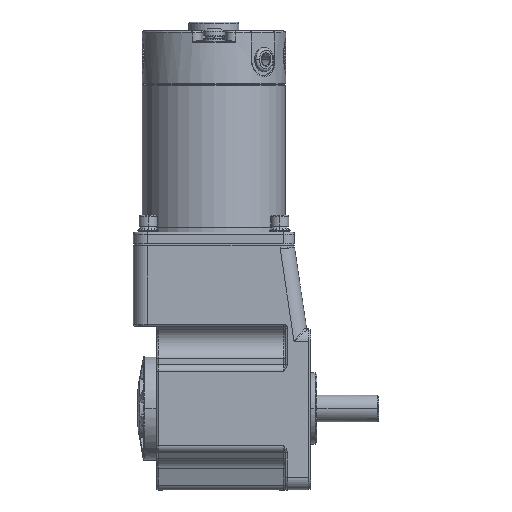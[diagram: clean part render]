
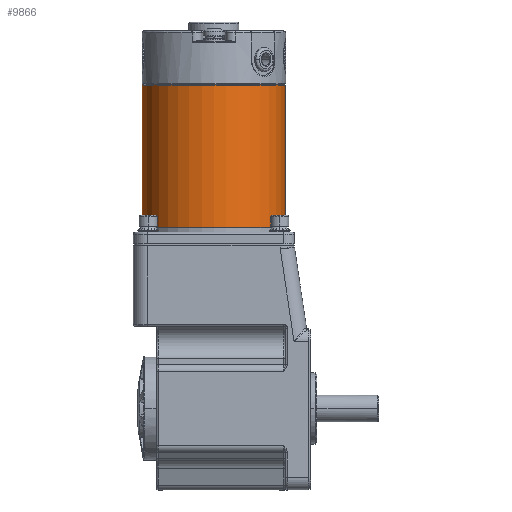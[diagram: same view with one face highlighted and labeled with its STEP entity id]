
A CAD part, left-side view. The second image highlights one B-rep face of the part: STEP entity #9866.
In plain terms, the highlighted cylindrical face has radius 40 mm (diameter 80 mm), a partial arc.
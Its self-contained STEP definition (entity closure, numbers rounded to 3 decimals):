
#1613 = CARTESIAN_POINT ( 'NONE',  ( 0., 79.7, 40. ) ) ;
#4895 = ORIENTED_EDGE ( 'NONE', *, *, #85922, .T. ) ;
#4937 = ORIENTED_EDGE ( 'NONE', *, *, #15105, .T. ) ;
#5425 = VECTOR ( 'NONE', #65822, 1000. ) ;
#5446 = AXIS2_PLACEMENT_3D ( 'NONE', #5830, #28747, #49015 ) ;
#5830 = CARTESIAN_POINT ( 'NONE',  ( 0., 79.7, 0. ) ) ;
#6045 = CARTESIAN_POINT ( 'NONE',  ( 0., 0., 40. ) ) ;
#9866 = ADVANCED_FACE ( 'NONE', ( #63003 ), #78920, .T. ) ;
#9867 = VECTOR ( 'NONE', #84894, 1000. ) ;
#10540 = CIRCLE ( 'NONE', #48053, 40. ) ;
#13684 = DIRECTION ( 'NONE',  ( 0., 1., 0. ) ) ;
#14643 = CARTESIAN_POINT ( 'NONE',  ( 0., 0.3, 40. ) ) ;
#15105 = EDGE_CURVE ( 'NONE', #16588, #77732, #10540, .T. ) ;
#16588 = VERTEX_POINT ( 'NONE', #21186 ) ;
#17588 = CIRCLE ( 'NONE', #70084, 40. ) ;
#19754 = ORIENTED_EDGE ( 'NONE', *, *, #75853, .F. ) ;
#19841 = ORIENTED_EDGE ( 'NONE', *, *, #42543, .T. ) ;
#21186 = CARTESIAN_POINT ( 'NONE',  ( 40., 0.3, 0. ) ) ;
#22432 = AXIS2_PLACEMENT_3D ( 'NONE', #27279, #13684, #28205 ) ;
#27279 = CARTESIAN_POINT ( 'NONE',  ( 0., 0., 0. ) ) ;
#28205 = DIRECTION ( 'NONE',  ( 0., 0., 1. ) ) ;
#28747 = DIRECTION ( 'NONE',  ( 0., -1., 0. ) ) ;
#28855 = CARTESIAN_POINT ( 'NONE',  ( 0., 79.7, -40. ) ) ;
#30268 = VERTEX_POINT ( 'NONE', #14643 ) ;
#32934 = CARTESIAN_POINT ( 'NONE',  ( 0., 0.3, 0. ) ) ;
#41390 = CIRCLE ( 'NONE', #5446, 40. ) ;
#42543 = EDGE_CURVE ( 'NONE', #62941, #85100, #41390, .T. ) ;
#45422 = DIRECTION ( 'NONE',  ( 0., 0., 1. ) ) ;
#45932 = CARTESIAN_POINT ( 'NONE',  ( 0., 0.3, -40. ) ) ;
#47265 = ORIENTED_EDGE ( 'NONE', *, *, #56942, .T. ) ;
#48053 = AXIS2_PLACEMENT_3D ( 'NONE', #32934, #68618, #90230 ) ;
#49015 = DIRECTION ( 'NONE',  ( 0., 0., 1. ) ) ;
#50372 = LINE ( 'NONE', #78977, #5425 ) ;
#56862 = CARTESIAN_POINT ( 'NONE',  ( 0., 0.3, 0. ) ) ;
#56942 = EDGE_CURVE ( 'NONE', #77732, #62941, #50372, .T. ) ;
#62941 = VERTEX_POINT ( 'NONE', #28855 ) ;
#63003 = FACE_OUTER_BOUND ( 'NONE', #69341, .T. ) ;
#65285 = DIRECTION ( 'NONE',  ( 0., 1., 0. ) ) ;
#65822 = DIRECTION ( 'NONE',  ( 0., 1., 0. ) ) ;
#68618 = DIRECTION ( 'NONE',  ( 0., 1., 0. ) ) ;
#69341 = EDGE_LOOP ( 'NONE', ( #4937, #47265, #19841, #19754, #4895 ) ) ;
#70084 = AXIS2_PLACEMENT_3D ( 'NONE', #56862, #65285, #45422 ) ;
#75853 = EDGE_CURVE ( 'NONE', #30268, #85100, #91005, .T. ) ;
#77732 = VERTEX_POINT ( 'NONE', #45932 ) ;
#78920 = CYLINDRICAL_SURFACE ( 'NONE', #22432, 40. ) ;
#78977 = CARTESIAN_POINT ( 'NONE',  ( 0., 0., -40. ) ) ;
#84894 = DIRECTION ( 'NONE',  ( 0., 1., 0. ) ) ;
#85100 = VERTEX_POINT ( 'NONE', #1613 ) ;
#85922 = EDGE_CURVE ( 'NONE', #30268, #16588, #17588, .T. ) ;
#90230 = DIRECTION ( 'NONE',  ( 0., 0., 1. ) ) ;
#91005 = LINE ( 'NONE', #6045, #9867 ) ;
